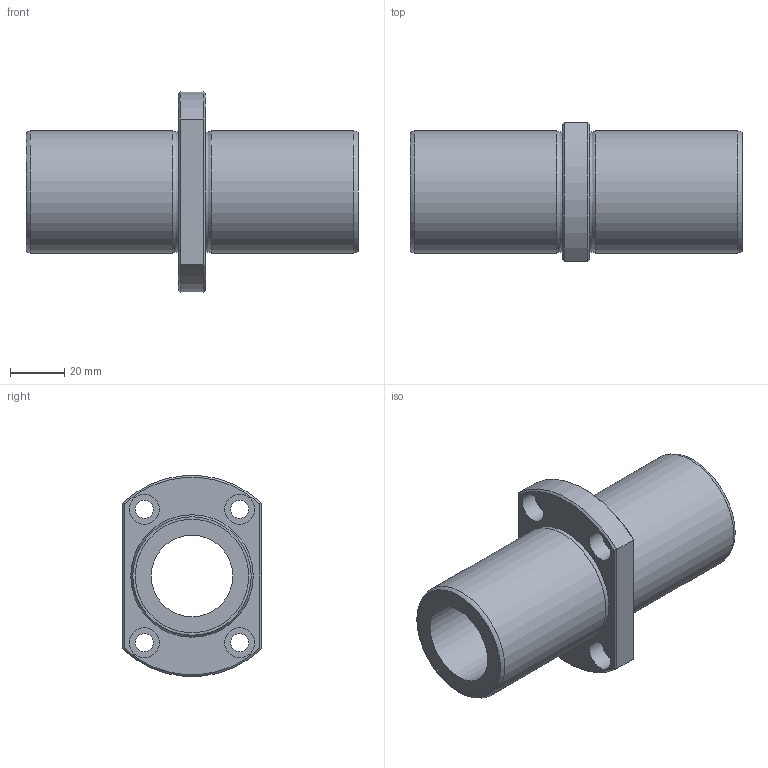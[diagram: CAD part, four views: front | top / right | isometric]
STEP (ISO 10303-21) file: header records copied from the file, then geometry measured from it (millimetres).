
FILE_DESCRIPTION((''),'2;1');
FILE_NAME('D:\製品 (図面)\カタログ用3D\リニアベアリング関連\STEP形式\LFDTC\LFDTC30B.stp','2010-06-04T08:42:51',('Tsuchiya'),(''),'Autodesk Inventor 10','Autodesk Inventor 10','');
FILE_SCHEMA(('AUTOMOTIVE_DESIGN { 1 0 10303 214 1 1 1 1 }'));
Length unit declared in the file: millimetre
Products named in the file (1): LFDTC30B
Bounding box: 122 x 51 x 73.74 mm (x, y, z)
Volume: 122845.7 mm3; surface area: 35726.6 mm2
Topology: 1 solids, 1 shells, 39 faces, 75 edges, 46 vertices
Faces by surface type: plane 16, cylinder 15, cone 4, torus 2, bspline 2
Full cylindrical faces by diameter (mm): 6.6 x4, 11 x4, 30 x1, 41.7 x2, 45 x2
Entity records: 1073 total; most frequent: CARTESIAN_POINT 292, DIRECTION 164, ORIENTED_EDGE 116, AXIS2_PLACEMENT_3D 76, EDGE_LOOP 74, EDGE_CURVE 58, VERTEX_POINT 46, FACE_OUTER_BOUND 39
